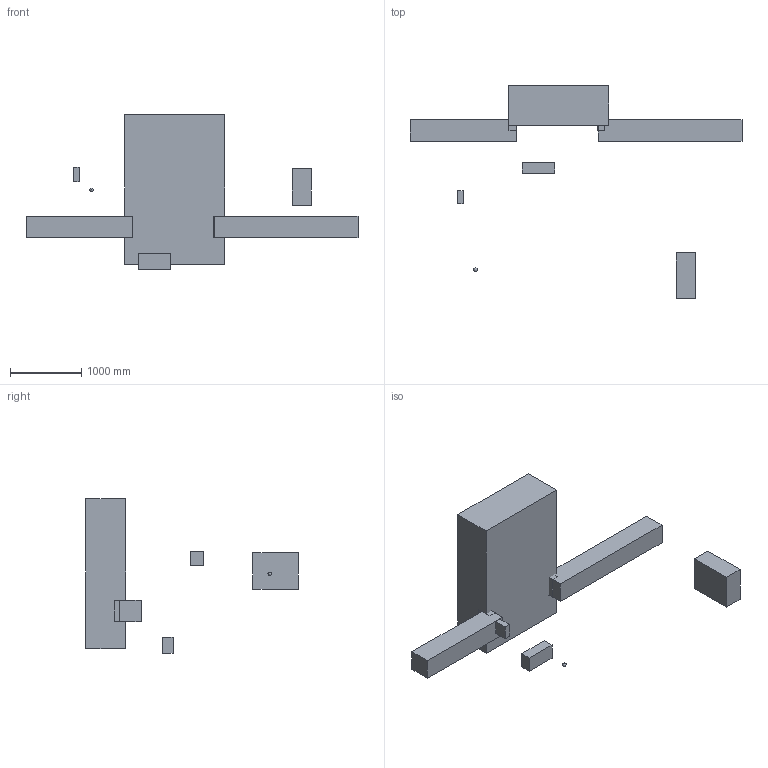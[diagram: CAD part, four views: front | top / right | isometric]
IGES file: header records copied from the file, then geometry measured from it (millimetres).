
Global section: file name: Y:\Project\Active\Wartzilla\Gearboxes\Output_IGES\Universal format 31jan08\SV_105_P63\SV105_P63_service_space_simplified.igs; native system: NX V4.0; preprocessor: UGS NX IGES V4.0; date: 20080212.203107; units: millimetre
Bounding box: 4644 x 2976.13 x 2167.72 mm (x, y, z)
Surface area: 16697276.2 mm2 (no closed solid volume)
Topology: 0 solids, 0 shells, 49 faces, 2376 edges, 2921 vertices
Faces by surface type: extrusion 48, revolution 1
